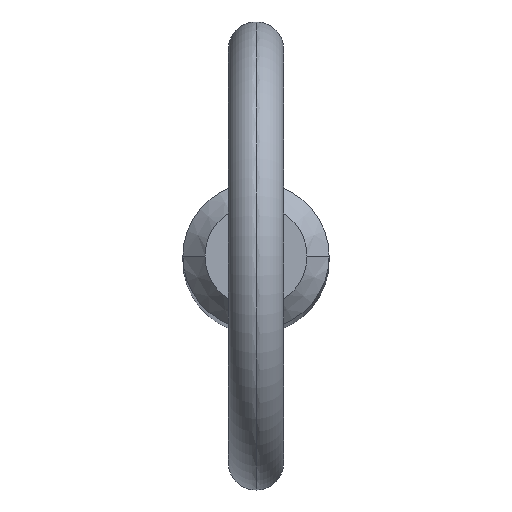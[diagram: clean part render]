
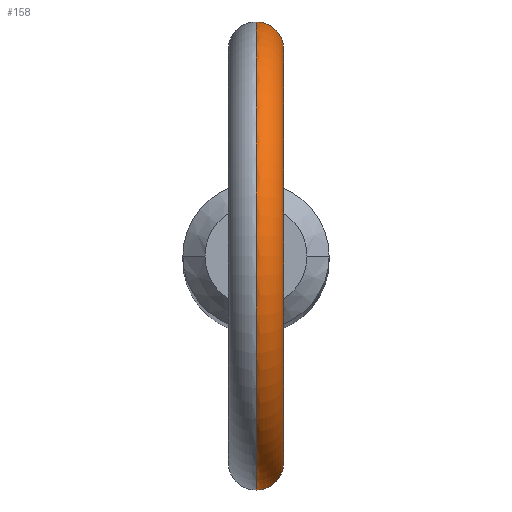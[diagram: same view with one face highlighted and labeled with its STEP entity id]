
A CAD part, top view. The second image highlights one B-rep face of the part: STEP entity #158.
In plain terms, the highlighted toroidal (fillet/blend) face has major radius 11.2 mm and minor radius 1.5 mm.
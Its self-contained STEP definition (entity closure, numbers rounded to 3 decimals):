
#12 = CARTESIAN_POINT ( 'NONE',  ( 0.691, 3.905, 125.289 ) ) ;
#13 = EDGE_CURVE ( 'NONE', #282, #371, #247, .T. ) ;
#15 = ORIENTED_EDGE ( 'NONE', *, *, #273, .F. ) ;
#16 = CARTESIAN_POINT ( 'NONE',  ( 1.503, 3.669, 126.598 ) ) ;
#21 = CARTESIAN_POINT ( 'NONE',  ( 0., 3.965, 128.347 ) ) ;
#23 = CARTESIAN_POINT ( 'NONE',  ( 0., 0., 137.2 ) ) ;
#25 = DIRECTION ( 'NONE',  ( 1., 0., 0. ) ) ;
#27 = CARTESIAN_POINT ( 'NONE',  ( 0., 3.965, 125.135 ) ) ;
#33 = CARTESIAN_POINT ( 'NONE',  ( 1.434, -3.697, 127.105 ) ) ;
#34 = CARTESIAN_POINT ( 'NONE',  ( 0.409, -3.948, 125.174 ) ) ;
#37 = CARTESIAN_POINT ( 'NONE',  ( 0.205, -3.961, 128.334 ) ) ;
#42 = CARTESIAN_POINT ( 'NONE',  ( 0., 0., 137.2 ) ) ;
#54 = EDGE_CURVE ( 'NONE', #114, #101, #479, .T. ) ;
#56 = AXIS2_PLACEMENT_3D ( 'NONE', #280, #477, #257 ) ;
#57 = CARTESIAN_POINT ( 'NONE',  ( 0.949, 3.851, 125.449 ) ) ;
#58 = CARTESIAN_POINT ( 'NONE',  ( 0.782, 3.888, 125.337 ) ) ;
#60 = CARTESIAN_POINT ( 'NONE',  ( 1.447, 3.692, 126.193 ) ) ;
#73 = CARTESIAN_POINT ( 'NONE',  ( 0.925, -3.858, 127.968 ) ) ;
#74 = CARTESIAN_POINT ( 'NONE',  ( 0.498, -3.935, 128.244 ) ) ;
#79 = ORIENTED_EDGE ( 'NONE', *, *, #424, .F. ) ;
#80 = CARTESIAN_POINT ( 'NONE',  ( 0.205, -3.965, 125.135 ) ) ;
#97 = CARTESIAN_POINT ( 'NONE',  ( 1.026, 3.831, 125.513 ) ) ;
#101 = VERTEX_POINT ( 'NONE', #162 ) ;
#109 = AXIS2_PLACEMENT_3D ( 'NONE', #23, #25, #326 ) ;
#114 = VERTEX_POINT ( 'NONE', #178 ) ;
#158 = ADVANCED_FACE ( 'NONE', ( #293 ), #365, .T. ) ;
#162 = CARTESIAN_POINT ( 'NONE',  ( 0., -3.965, 128.347 ) ) ;
#170 = B_SPLINE_CURVE_WITH_KNOTS ( 'NONE', 3,
 ( #289, #336, #488, #12, #58, #57, #97, #290, #407, #60, #447, #203, #16, #373, #296, #379, #415, #375, #263, #179, #339, #21 ),
 .UNSPECIFIED., .F., .F.,
 ( 4, 2, 2, 2, 2, 2, 2, 2, 2, 2, 4 ),
 ( 0.001, 0.001, 0.002, 0.002, 0.003, 0.003, 0.003, 0.004, 0.004, 0.005, 0.006 ),
 .UNSPECIFIED. ) ;
#178 = CARTESIAN_POINT ( 'NONE',  ( 0., 3.965, 128.347 ) ) ;
#179 = CARTESIAN_POINT ( 'NONE',  ( 0.411, 3.948, 128.291 ) ) ;
#184 = CARTESIAN_POINT ( 'NONE',  ( 0.77, -3.894, 128.1 ) ) ;
#187 = CARTESIAN_POINT ( 'NONE',  ( 0.102, -3.965, 128.347 ) ) ;
#188 = CARTESIAN_POINT ( 'NONE',  ( 1.499, -3.671, 126.497 ) ) ;
#201 = B_SPLINE_CURVE_WITH_KNOTS ( 'NONE', 3,
 ( #215, #187, #37, #423, #74, #184, #73, #502, #269, #353, #33, #464, #307, #230, #188, #499, #346, #458, #275, #466, #351, #311, #422, #34, #80, #231 ),
 .UNSPECIFIED., .F., .F.,
 ( 4, 2, 2, 2, 2, 2, 2, 2, 2, 2, 2, 2, 4 ),
 ( 0.004, 0.005, 0.005, 0.005, 0.006, 0.006, 0.007, 0.007, 0.007, 0.008, 0.008, 0.008, 0.009 ),
 .UNSPECIFIED. ) ;
#203 = CARTESIAN_POINT ( 'NONE',  ( 1.499, 3.671, 126.494 ) ) ;
#215 = CARTESIAN_POINT ( 'NONE',  ( 0., -3.965, 128.347 ) ) ;
#230 = CARTESIAN_POINT ( 'NONE',  ( 1.503, -3.669, 126.599 ) ) ;
#231 = CARTESIAN_POINT ( 'NONE',  ( 0., -3.965, 125.135 ) ) ;
#247 = CIRCLE ( 'NONE', #364, 12.7 ) ;
#253 = ORIENTED_EDGE ( 'NONE', *, *, #54, .F. ) ;
#257 = DIRECTION ( 'NONE',  ( 0., 0., -1. ) ) ;
#262 = CARTESIAN_POINT ( 'NONE',  ( 0., -3.965, 125.135 ) ) ;
#263 = CARTESIAN_POINT ( 'NONE',  ( 0.769, 3.894, 128.101 ) ) ;
#269 = CARTESIAN_POINT ( 'NONE',  ( 1.291, -3.75, 127.483 ) ) ;
#273 = EDGE_CURVE ( 'NONE', #282, #114, #170, .T. ) ;
#275 = CARTESIAN_POINT ( 'NONE',  ( 1.237, -3.77, 125.731 ) ) ;
#280 = CARTESIAN_POINT ( 'NONE',  ( 0., 0., 137.2 ) ) ;
#282 = VERTEX_POINT ( 'NONE', #27 ) ;
#289 = CARTESIAN_POINT ( 'NONE',  ( 0., 3.965, 125.135 ) ) ;
#290 = CARTESIAN_POINT ( 'NONE',  ( 1.236, 3.77, 125.729 ) ) ;
#293 = FACE_OUTER_BOUND ( 'NONE', #316, .T. ) ;
#296 = CARTESIAN_POINT ( 'NONE',  ( 1.441, 3.695, 127.108 ) ) ;
#307 = CARTESIAN_POINT ( 'NONE',  ( 1.493, -3.673, 126.804 ) ) ;
#311 = CARTESIAN_POINT ( 'NONE',  ( 0.782, -3.888, 125.337 ) ) ;
#316 = EDGE_LOOP ( 'NONE', ( #15, #342, #79, #253 ) ) ;
#326 = DIRECTION ( 'NONE',  ( 0., 0., -1. ) ) ;
#336 = CARTESIAN_POINT ( 'NONE',  ( 0.204, 3.965, 125.135 ) ) ;
#339 = CARTESIAN_POINT ( 'NONE',  ( 0.206, 3.965, 128.347 ) ) ;
#342 = ORIENTED_EDGE ( 'NONE', *, *, #13, .T. ) ;
#346 = CARTESIAN_POINT ( 'NONE',  ( 1.447, -3.692, 126.193 ) ) ;
#351 = CARTESIAN_POINT ( 'NONE',  ( 0.949, -3.851, 125.449 ) ) ;
#353 = CARTESIAN_POINT ( 'NONE',  ( 1.404, -3.708, 127.201 ) ) ;
#364 = AXIS2_PLACEMENT_3D ( 'NONE', #42, #431, #476 ) ;
#365 = TOROIDAL_SURFACE ( 'NONE', #109, 11.2, 1.5 ) ;
#371 = VERTEX_POINT ( 'NONE', #262 ) ;
#373 = CARTESIAN_POINT ( 'NONE',  ( 1.488, 3.675, 126.905 ) ) ;
#375 = CARTESIAN_POINT ( 'NONE',  ( 0.927, 3.858, 127.967 ) ) ;
#379 = CARTESIAN_POINT ( 'NONE',  ( 1.291, 3.75, 127.484 ) ) ;
#407 = CARTESIAN_POINT ( 'NONE',  ( 1.344, 3.731, 125.903 ) ) ;
#415 = CARTESIAN_POINT ( 'NONE',  ( 1.185, 3.786, 127.66 ) ) ;
#422 = CARTESIAN_POINT ( 'NONE',  ( 0.693, -3.905, 125.29 ) ) ;
#423 = CARTESIAN_POINT ( 'NONE',  ( 0.404, -3.946, 128.282 ) ) ;
#424 = EDGE_CURVE ( 'NONE', #101, #371, #201, .T. ) ;
#431 = DIRECTION ( 'NONE',  ( 1., 0., 0. ) ) ;
#447 = CARTESIAN_POINT ( 'NONE',  ( 1.47, 3.682, 126.292 ) ) ;
#458 = CARTESIAN_POINT ( 'NONE',  ( 1.346, -3.73, 125.908 ) ) ;
#464 = CARTESIAN_POINT ( 'NONE',  ( 1.479, -3.679, 126.907 ) ) ;
#466 = CARTESIAN_POINT ( 'NONE',  ( 1.028, -3.83, 125.515 ) ) ;
#476 = DIRECTION ( 'NONE',  ( 0., 0., -1. ) ) ;
#477 = DIRECTION ( 'NONE',  ( 1., 0., 0. ) ) ;
#479 = CIRCLE ( 'NONE', #56, 9.7 ) ;
#488 = CARTESIAN_POINT ( 'NONE',  ( 0.41, 3.948, 125.174 ) ) ;
#499 = CARTESIAN_POINT ( 'NONE',  ( 1.471, -3.682, 126.294 ) ) ;
#502 = CARTESIAN_POINT ( 'NONE',  ( 1.186, -3.786, 127.659 ) ) ;
